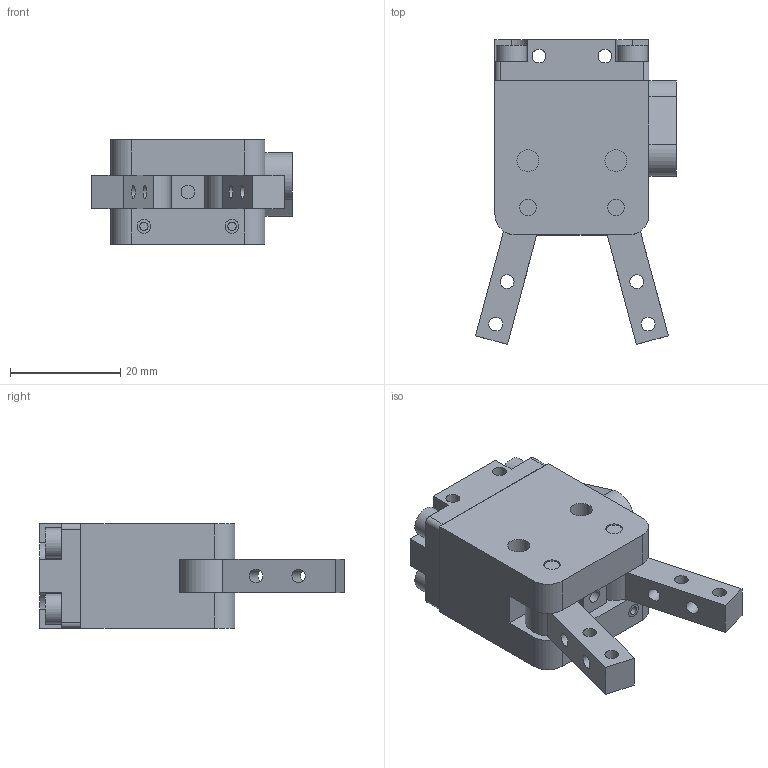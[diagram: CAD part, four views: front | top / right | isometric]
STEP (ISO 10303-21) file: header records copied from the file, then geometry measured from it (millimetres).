
FILE_DESCRIPTION (( 'STEP AP214' ), '1' );
FILE_NAME ('7834.STEP', '2024-07-09T14:58:17', ( '' ), ( '' ), 'SwSTEP 2.0', 'SolidWorks 2022', '' );
FILE_SCHEMA (( 'AUTOMOTIVE_DESIGN' ));
Length unit declared in the file: millimetre
Products named in the file (1): 7834
Bounding box: 36.52 x 55.38 x 19 mm (x, y, z)
Volume: 19122.2 mm3; surface area: 10399.6 mm2
Topology: 13 solids, 13 shells, 155 faces, 356 edges, 239 vertices
Faces by surface type: plane 99, cylinder 56
Full cylindrical faces by diameter (mm): 1.5 x2, 2.5 x19, 3 x8, 4 x4, 4.2 x2, 5.5 x4
Entity records: 4660 total; most frequent: DIRECTION 736, CARTESIAN_POINT 702, ORIENTED_EDGE 624, EDGE_CURVE 312, AXIS2_PLACEMENT_3D 268, EDGE_LOOP 252, VERTEX_POINT 234, LINE 200
